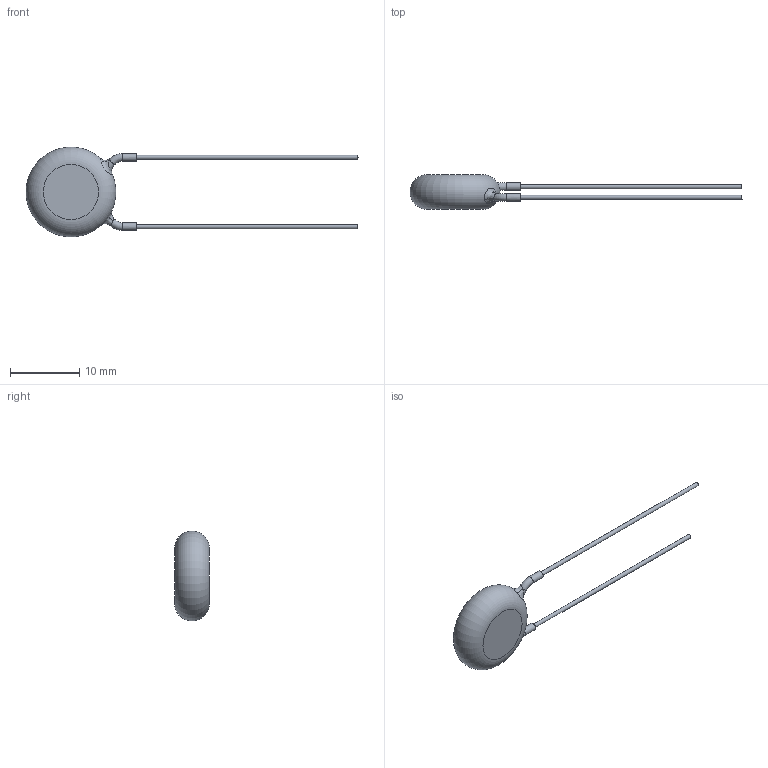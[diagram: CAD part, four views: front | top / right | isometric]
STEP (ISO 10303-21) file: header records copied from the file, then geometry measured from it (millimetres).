
FILE_DESCRIPTION((''),'2;1');
FILE_NAME('I:\Marketing\M6t1\3D-Models\Zchng-Werk-3\Upload for homepage\BCC\AY2\Y5U-10mm\AY2472K49Y5US63L0\AY2472K49Y5US63L0.stp','2015-09-09T08:41:35',(''),(''),'Autodesk Inventor 2013','Autodesk Inventor 2013','');
FILE_SCHEMA(('AUTOMOTIVE_DESIGN { 1 0 10303 214 1 1 1 1 }'));
Length unit declared in the file: centimetre
Products named in the file (1): AY2472K49Y5US63L0
Bounding box: 48 x 5 x 13 mm (x, y, z)
Volume: 591.8 mm3; surface area: 529.1 mm2
Topology: 1 solids, 1 shells, 19 faces, 35 edges, 22 vertices
Faces by surface type: cylinder 6, plane 6, bspline 4, torus 3
Full cylindrical faces by diameter (mm): 0.6 x2, 1.1 x2
Entity records: 673 total; most frequent: CARTESIAN_POINT 302, DIRECTION 64, ORIENTED_EDGE 48, AXIS2_PLACEMENT_3D 32, EDGE_LOOP 30, EDGE_CURVE 24, STYLED_ITEM 20, FACE_OUTER_BOUND 19
